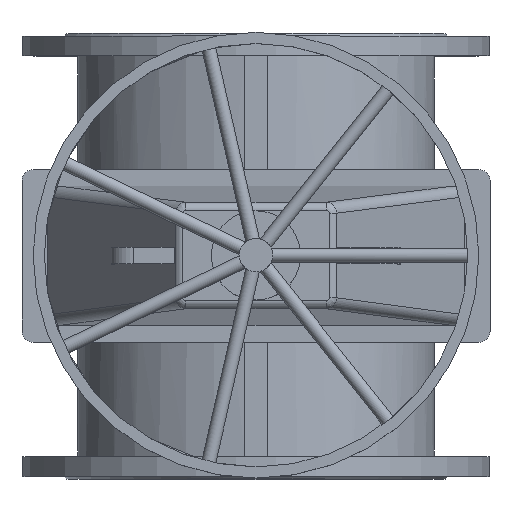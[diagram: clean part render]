
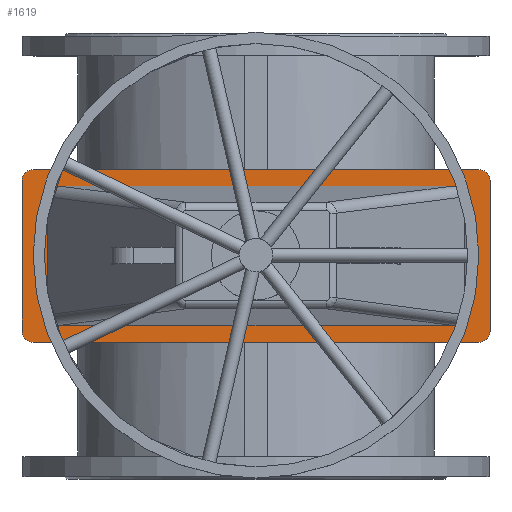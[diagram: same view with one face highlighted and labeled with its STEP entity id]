
A CAD part, top view. The second image highlights one B-rep face of the part: STEP entity #1619.
In plain terms, the highlighted planar face has unit normal (0, 0, 1).
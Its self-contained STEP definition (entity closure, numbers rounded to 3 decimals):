
#1619=ADVANCED_FACE('',(#4328,#4330),#4332,.T.);
#4328=FACE_BOUND('',#4329,.T.);
#4329=EDGE_LOOP('',(#5799,#5800,#5801,#5802,#5803,#5804,#5805,#5806));
#4330=FACE_BOUND('',#4331,.T.);
#4331=EDGE_LOOP('',(#5807,#5808,#5809,#5810,#5811,#5812,#5813,#5814));
#4332=PLANE('',#4333);
#4333=AXIS2_PLACEMENT_3D('',#4334,#4335,#4336);
#4334=CARTESIAN_POINT('',(0.,0.,650.));
#4335=DIRECTION('',(0.,-0.,1.));
#4336=DIRECTION('',(0.,1.,0.));
#5799=ORIENTED_EDGE('',*,*,#6385,.F.);
#5800=ORIENTED_EDGE('',*,*,#6398,.T.);
#5801=ORIENTED_EDGE('',*,*,#6397,.F.);
#5802=ORIENTED_EDGE('',*,*,#6395,.T.);
#5803=ORIENTED_EDGE('',*,*,#6393,.F.);
#5804=ORIENTED_EDGE('',*,*,#6391,.T.);
#5805=ORIENTED_EDGE('',*,*,#6389,.F.);
#5806=ORIENTED_EDGE('',*,*,#6386,.T.);
#5807=ORIENTED_EDGE('',*,*,#6399,.F.);
#5808=ORIENTED_EDGE('',*,*,#6400,.F.);
#5809=ORIENTED_EDGE('',*,*,#6401,.F.);
#5810=ORIENTED_EDGE('',*,*,#6402,.F.);
#5811=ORIENTED_EDGE('',*,*,#6403,.F.);
#5812=ORIENTED_EDGE('',*,*,#6404,.F.);
#5813=ORIENTED_EDGE('',*,*,#6405,.F.);
#5814=ORIENTED_EDGE('',*,*,#6406,.F.);
#6385=EDGE_CURVE('',#7165,#7163,#7167,.F.);
#6386=EDGE_CURVE('',#7168,#7163,#7169,.T.);
#6389=EDGE_CURVE('',#7168,#7171,#7173,.F.);
#6391=EDGE_CURVE('',#7174,#7171,#7176,.T.);
#6393=EDGE_CURVE('',#7174,#7177,#7179,.F.);
#6395=EDGE_CURVE('',#7180,#7177,#7182,.T.);
#6397=EDGE_CURVE('',#7180,#7183,#7185,.F.);
#6398=EDGE_CURVE('',#7165,#7183,#7186,.T.);
#6399=EDGE_CURVE('',#7187,#7188,#7189,.F.);
#6400=EDGE_CURVE('',#7190,#7187,#7191,.T.);
#6401=EDGE_CURVE('',#7192,#7190,#7193,.T.);
#6402=EDGE_CURVE('',#7194,#7192,#7195,.T.);
#6403=EDGE_CURVE('',#7196,#7194,#7197,.F.);
#6404=EDGE_CURVE('',#7198,#7196,#7199,.T.);
#6405=EDGE_CURVE('',#7200,#7198,#7201,.T.);
#6406=EDGE_CURVE('',#7188,#7200,#7202,.T.);
#7163=VERTEX_POINT('',#9433);
#7165=VERTEX_POINT('',#9437);
#7167=CIRCLE('',#9441,20.);
#7168=VERTEX_POINT('',#9445);
#7169=LINE('',#9446,#9447);
#7171=VERTEX_POINT('',#9452);
#7173=CIRCLE('',#9456,20.);
#7174=VERTEX_POINT('',#9460);
#7176=LINE('',#9464,#9465);
#7177=VERTEX_POINT('',#9467);
#7179=CIRCLE('',#9471,20.);
#7180=VERTEX_POINT('',#9475);
#7182=LINE('',#9479,#9480);
#7183=VERTEX_POINT('',#9482);
#7185=CIRCLE('',#9486,20.);
#7186=LINE('',#9490,#9491);
#7187=VERTEX_POINT('',#9493);
#7188=VERTEX_POINT('',#9494);
#7189=(BOUNDED_CURVE()B_SPLINE_CURVE(3,
(#9495,#9496,#9497,#9498),
.UNSPECIFIED.,.F.,.F.)B_SPLINE_CURVE_WITH_KNOTS((4,4),
(0.,1.),
.UNSPECIFIED.)CURVE()GEOMETRIC_REPRESENTATION_ITEM()RATIONAL_B_SPLINE_CURVE((1.,
0.816,0.816,1.))REPRESENTATION_ITEM(''));
#7190=VERTEX_POINT('',#9499);
#7191=LINE('',#9500,#9501);
#7192=VERTEX_POINT('',#9503);
#7193=(BOUNDED_CURVE()B_SPLINE_CURVE(3,
(#9504,#9505,#9506,#9507),
.UNSPECIFIED.,.F.,.F.)B_SPLINE_CURVE_WITH_KNOTS((4,4),
(0.,1.),
.UNSPECIFIED.)CURVE()GEOMETRIC_REPRESENTATION_ITEM()RATIONAL_B_SPLINE_CURVE((1.,
0.816,0.816,1.))REPRESENTATION_ITEM(''));
#7194=VERTEX_POINT('',#9508);
#7195=LINE('',#9509,#9510);
#7196=VERTEX_POINT('',#9512);
#7197=(BOUNDED_CURVE()B_SPLINE_CURVE(3,
(#9513,#9514,#9515,#9516),
.UNSPECIFIED.,.F.,.F.)B_SPLINE_CURVE_WITH_KNOTS((4,4),
(0.,1.),
.UNSPECIFIED.)CURVE()GEOMETRIC_REPRESENTATION_ITEM()RATIONAL_B_SPLINE_CURVE((1.,
0.816,0.816,1.))REPRESENTATION_ITEM(''));
#7198=VERTEX_POINT('',#9517);
#7199=LINE('',#9518,#9519);
#7200=VERTEX_POINT('',#9521);
#7201=(BOUNDED_CURVE()B_SPLINE_CURVE(3,
(#9522,#9523,#9524,#9525),
.UNSPECIFIED.,.F.,.F.)B_SPLINE_CURVE_WITH_KNOTS((4,4),
(0.,1.),
.UNSPECIFIED.)CURVE()GEOMETRIC_REPRESENTATION_ITEM()RATIONAL_B_SPLINE_CURVE((1.,
0.816,0.816,1.))REPRESENTATION_ITEM(''));
#7202=LINE('',#9526,#9527);
#9433=CARTESIAN_POINT('',(-420.,-135.,650.));
#9437=CARTESIAN_POINT('',(-400.,-155.,650.));
#9441=AXIS2_PLACEMENT_3D('',#9442,#9443,#9444);
#9442=CARTESIAN_POINT('',(-400.,-135.,650.));
#9443=DIRECTION('',(0.,-0.,1.));
#9444=DIRECTION('',(-1.,0.,0.));
#9445=CARTESIAN_POINT('',(-420.,135.,650.));
#9446=CARTESIAN_POINT('',(-420.,135.,650.));
#9447=VECTOR('',#9448,1.);
#9448=DIRECTION('',(0.,-1.,0.));
#9452=CARTESIAN_POINT('',(-400.,155.,650.));
#9456=AXIS2_PLACEMENT_3D('',#9457,#9458,#9459);
#9457=CARTESIAN_POINT('',(-400.,135.,650.));
#9458=DIRECTION('',(0.,-0.,1.));
#9459=DIRECTION('',(0.,1.,0.));
#9460=CARTESIAN_POINT('',(400.,155.,650.));
#9464=CARTESIAN_POINT('',(400.,155.,650.));
#9465=VECTOR('',#9466,1.);
#9466=DIRECTION('',(-1.,0.,0.));
#9467=CARTESIAN_POINT('',(420.,135.,650.));
#9471=AXIS2_PLACEMENT_3D('',#9472,#9473,#9474);
#9472=CARTESIAN_POINT('',(400.,135.,650.));
#9473=DIRECTION('',(0.,-0.,1.));
#9474=DIRECTION('',(1.,0.,0.));
#9475=CARTESIAN_POINT('',(420.,-135.,650.));
#9479=CARTESIAN_POINT('',(420.,-135.,650.));
#9480=VECTOR('',#9481,1.);
#9481=DIRECTION('',(0.,1.,0.));
#9482=CARTESIAN_POINT('',(400.,-155.,650.));
#9486=AXIS2_PLACEMENT_3D('',#9487,#9488,#9489);
#9487=CARTESIAN_POINT('',(400.,-135.,650.));
#9488=DIRECTION('',(0.,-0.,1.));
#9489=DIRECTION('',(0.,-1.,0.));
#9490=CARTESIAN_POINT('',(-400.,-155.,650.));
#9491=VECTOR('',#9492,1.);
#9492=DIRECTION('',(1.,0.,0.));
#9493=CARTESIAN_POINT('',(-375.,-105.899,650.));
#9494=CARTESIAN_POINT('',(-352.08,-125.,650.));
#9495=CARTESIAN_POINT('',(-352.08,-125.,650.));
#9496=CARTESIAN_POINT('',(-365.638,-125.,650.));
#9497=CARTESIAN_POINT('',(-375.,-117.198,650.));
#9498=CARTESIAN_POINT('',(-375.,-105.899,650.));
#9499=CARTESIAN_POINT('',(-375.,105.899,650.));
#9500=CARTESIAN_POINT('',(-375.,105.899,650.));
#9501=VECTOR('',#9502,1.);
#9502=DIRECTION('',(0.,-1.,0.));
#9503=CARTESIAN_POINT('',(-352.08,125.,650.));
#9504=CARTESIAN_POINT('',(-352.08,125.,650.));
#9505=CARTESIAN_POINT('',(-365.638,125.,650.));
#9506=CARTESIAN_POINT('',(-375.,117.198,650.));
#9507=CARTESIAN_POINT('',(-375.,105.899,650.));
#9508=CARTESIAN_POINT('',(352.08,125.,650.));
#9509=CARTESIAN_POINT('',(352.08,125.,650.));
#9510=VECTOR('',#9511,1.);
#9511=DIRECTION('',(-1.,0.,0.));
#9512=CARTESIAN_POINT('',(375.,105.899,650.));
#9513=CARTESIAN_POINT('',(352.08,125.,650.));
#9514=CARTESIAN_POINT('',(365.638,125.,650.));
#9515=CARTESIAN_POINT('',(375.,117.198,650.));
#9516=CARTESIAN_POINT('',(375.,105.899,650.));
#9517=CARTESIAN_POINT('',(375.,-105.899,650.));
#9518=CARTESIAN_POINT('',(375.,-105.899,650.));
#9519=VECTOR('',#9520,1.);
#9520=DIRECTION('',(0.,1.,0.));
#9521=CARTESIAN_POINT('',(352.08,-125.,650.));
#9522=CARTESIAN_POINT('',(352.08,-125.,650.));
#9523=CARTESIAN_POINT('',(365.638,-125.,650.));
#9524=CARTESIAN_POINT('',(375.,-117.198,650.));
#9525=CARTESIAN_POINT('',(375.,-105.899,650.));
#9526=CARTESIAN_POINT('',(-352.08,-125.,650.));
#9527=VECTOR('',#9528,1.);
#9528=DIRECTION('',(1.,0.,0.));
